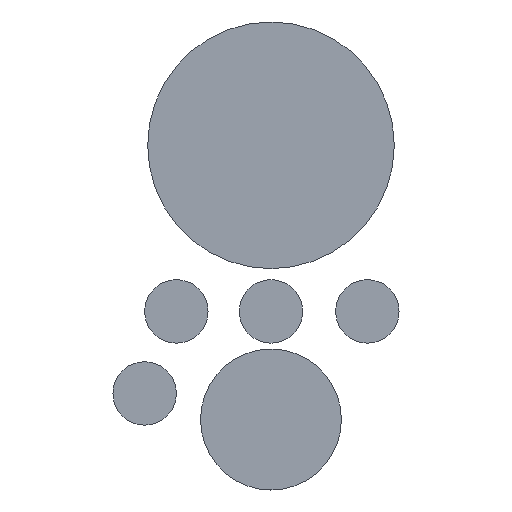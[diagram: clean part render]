
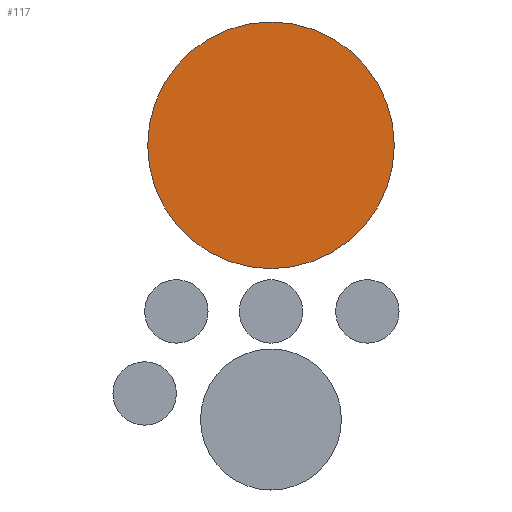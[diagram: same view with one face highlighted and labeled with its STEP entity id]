
A CAD part, top view. The second image highlights one B-rep face of the part: STEP entity #117.
In plain terms, the highlighted planar face has unit normal (0, 0, 1).
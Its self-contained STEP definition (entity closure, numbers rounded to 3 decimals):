
#117=ADVANCED_FACE('',(#279),#281,.T.);
#279=FACE_BOUND('',#280,.T.);
#280=EDGE_LOOP('',(#410));
#281=PLANE('',#282);
#282=AXIS2_PLACEMENT_3D('',#283,#284,#285);
#283=CARTESIAN_POINT('',(0.,0.,0.5));
#284=DIRECTION('',(0.,0.,1.));
#285=DIRECTION('',(1.,0.,0.));
#410=ORIENTED_EDGE('',*,*,#432,.T.);
#432=EDGE_CURVE('',#444,#444,#445,.T.);
#444=VERTEX_POINT('',#468);
#445=CIRCLE('',#469,35.);
#468=CARTESIAN_POINT('',(35.,47.134,0.5));
#469=AXIS2_PLACEMENT_3D('',#470,#471,#472);
#470=CARTESIAN_POINT('',(0.,47.134,0.5));
#471=DIRECTION('',(0.,0.,1.));
#472=DIRECTION('',(1.,0.,0.));
